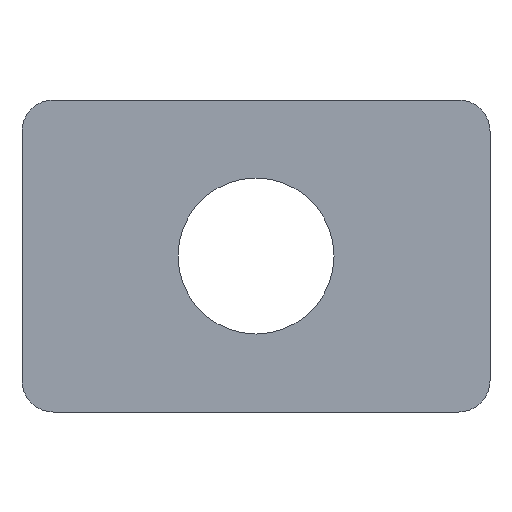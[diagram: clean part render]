
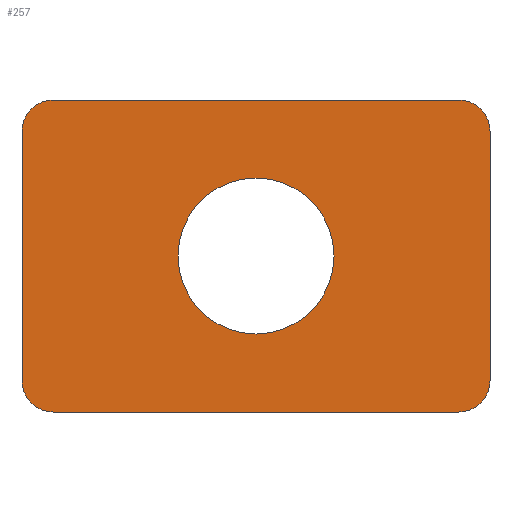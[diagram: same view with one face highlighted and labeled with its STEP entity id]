
A CAD part, front view. The second image highlights one B-rep face of the part: STEP entity #257.
In plain terms, the highlighted planar face has unit normal (0, -1, 0).
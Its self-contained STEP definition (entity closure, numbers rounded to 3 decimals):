
#20=CARTESIAN_POINT('',(6.5,0.,4.));
#21=DIRECTION('',(0.,-1.,0.));
#22=DIRECTION('',(1.,0.,0.));
#23=AXIS2_PLACEMENT_3D('',#20,#21,#22);
#25=DIRECTION('',(0.,0.,-1.));
#26=VECTOR('',#25,8.);
#27=CARTESIAN_POINT('',(7.5,0.,4.));
#28=LINE('',#27,#26);
#29=CARTESIAN_POINT('',(6.5,0.,-4.));
#30=DIRECTION('',(0.,-1.,0.));
#31=DIRECTION('',(0.,0.,-1.));
#32=AXIS2_PLACEMENT_3D('',#29,#30,#31);
#34=DIRECTION('',(-1.,0.,0.));
#35=VECTOR('',#34,13.);
#36=CARTESIAN_POINT('',(6.5,0.,-5.));
#37=LINE('',#36,#35);
#38=CARTESIAN_POINT('',(-6.5,0.,-4.));
#39=DIRECTION('',(0.,-1.,0.));
#40=DIRECTION('',(-1.,0.,0.));
#41=AXIS2_PLACEMENT_3D('',#38,#39,#40);
#43=DIRECTION('',(0.,0.,1.));
#44=VECTOR('',#43,8.);
#45=CARTESIAN_POINT('',(-7.5,0.,-4.));
#46=LINE('',#45,#44);
#47=CARTESIAN_POINT('',(-6.5,0.,4.));
#48=DIRECTION('',(0.,-1.,0.));
#49=DIRECTION('',(0.,0.,1.));
#50=AXIS2_PLACEMENT_3D('',#47,#48,#49);
#52=DIRECTION('',(1.,0.,0.));
#53=VECTOR('',#52,13.);
#54=CARTESIAN_POINT('',(-6.5,0.,5.));
#55=LINE('',#54,#53);
#56=CARTESIAN_POINT('',(0.,0.,0.));
#57=DIRECTION('',(0.,-1.,0.));
#58=DIRECTION('',(1.,0.,0.));
#59=AXIS2_PLACEMENT_3D('',#56,#57,#58);
#61=CARTESIAN_POINT('',(0.,0.,0.));
#62=DIRECTION('',(0.,-1.,0.));
#63=DIRECTION('',(-1.,0.,0.));
#64=AXIS2_PLACEMENT_3D('',#61,#62,#63);
#180=CARTESIAN_POINT('',(7.5,0.,4.));
#181=CARTESIAN_POINT('',(6.5,0.,5.));
#182=VERTEX_POINT('',#180);
#183=VERTEX_POINT('',#181);
#188=CARTESIAN_POINT('',(6.5,0.,-5.));
#189=CARTESIAN_POINT('',(7.5,0.,-4.));
#190=VERTEX_POINT('',#188);
#191=VERTEX_POINT('',#189);
#196=CARTESIAN_POINT('',(-7.5,0.,-4.));
#197=CARTESIAN_POINT('',(-6.5,0.,-5.));
#198=VERTEX_POINT('',#196);
#199=VERTEX_POINT('',#197);
#204=CARTESIAN_POINT('',(-6.5,0.,5.));
#205=CARTESIAN_POINT('',(-7.5,0.,4.));
#206=VERTEX_POINT('',#204);
#207=VERTEX_POINT('',#205);
#220=CARTESIAN_POINT('',(2.5,0.,0.));
#221=CARTESIAN_POINT('',(-2.5,0.,0.));
#222=VERTEX_POINT('',#220);
#223=VERTEX_POINT('',#221);
#228=CARTESIAN_POINT('',(0.,0.,0.));
#229=DIRECTION('',(0.,1.,0.));
#230=DIRECTION('',(1.,0.,0.));
#231=AXIS2_PLACEMENT_3D('',#228,#229,#230);
#232=PLANE('',#231);
#234=ORIENTED_EDGE('',*,*,#233,.F.);
#236=ORIENTED_EDGE('',*,*,#235,.T.);
#238=ORIENTED_EDGE('',*,*,#237,.F.);
#240=ORIENTED_EDGE('',*,*,#239,.T.);
#242=ORIENTED_EDGE('',*,*,#241,.F.);
#244=ORIENTED_EDGE('',*,*,#243,.T.);
#246=ORIENTED_EDGE('',*,*,#245,.F.);
#248=ORIENTED_EDGE('',*,*,#247,.T.);
#249=EDGE_LOOP('',(#234,#236,#238,#240,#242,#244,#246,#248));
#250=FACE_OUTER_BOUND('',#249,.F.);
#252=ORIENTED_EDGE('',*,*,#251,.T.);
#254=ORIENTED_EDGE('',*,*,#253,.T.);
#255=EDGE_LOOP('',(#252,#254));
#256=FACE_BOUND('',#255,.F.);
#257=ADVANCED_FACE('',(#250,#256),#232,.F.);
#24=CIRCLE('',#23,1.);
#33=CIRCLE('',#32,1.);
#42=CIRCLE('',#41,1.);
#51=CIRCLE('',#50,1.);
#60=CIRCLE('',#59,2.5);
#65=CIRCLE('',#64,2.5);
#233=EDGE_CURVE('',#182,#183,#24,.T.);
#235=EDGE_CURVE('',#182,#191,#28,.T.);
#237=EDGE_CURVE('',#190,#191,#33,.T.);
#239=EDGE_CURVE('',#190,#199,#37,.T.);
#241=EDGE_CURVE('',#198,#199,#42,.T.);
#243=EDGE_CURVE('',#198,#207,#46,.T.);
#245=EDGE_CURVE('',#206,#207,#51,.T.);
#247=EDGE_CURVE('',#206,#183,#55,.T.);
#251=EDGE_CURVE('',#222,#223,#60,.T.);
#253=EDGE_CURVE('',#223,#222,#65,.T.);
